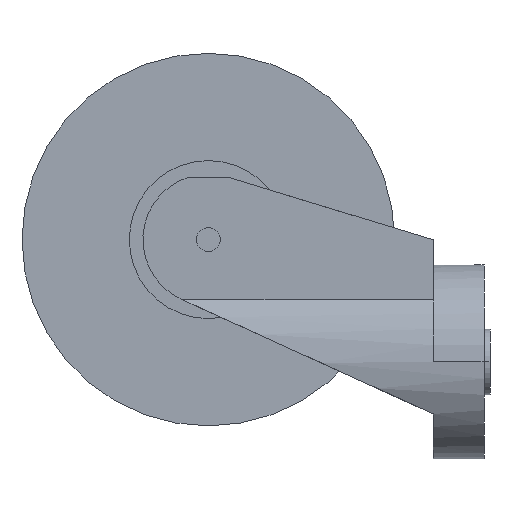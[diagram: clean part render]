
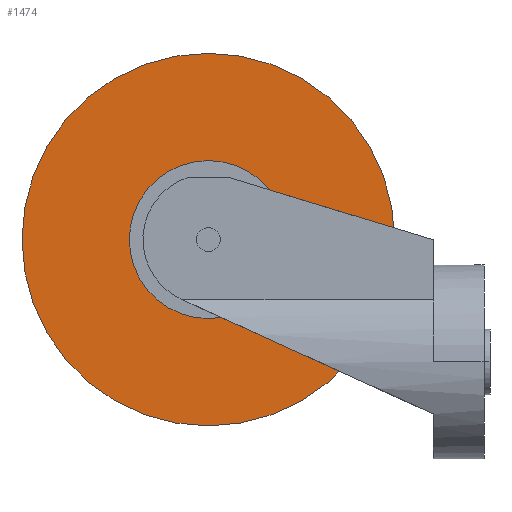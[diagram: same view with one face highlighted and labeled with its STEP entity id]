
A CAD part, left-side view. The second image highlights one B-rep face of the part: STEP entity #1474.
In plain terms, the highlighted planar face has unit normal (-1, 0, 0).
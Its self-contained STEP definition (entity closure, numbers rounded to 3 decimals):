
#1157=CARTESIAN_POINT('',(-18.5,0.,0.));
#1158=DIRECTION('',(-1.,0.,0.));
#1159=DIRECTION('',(0.,0.,-1.));
#1160=AXIS2_PLACEMENT_3D('',#1157,#1158,#1159);
#1162=CARTESIAN_POINT('',(-18.5,0.,0.));
#1163=DIRECTION('',(1.,0.,0.));
#1164=DIRECTION('',(0.,0.,-1.));
#1165=AXIS2_PLACEMENT_3D('',#1162,#1163,#1164);
#1167=CARTESIAN_POINT('',(-18.5,0.,0.));
#1168=DIRECTION('',(1.,0.,0.));
#1169=DIRECTION('',(0.,0.,-1.));
#1170=AXIS2_PLACEMENT_3D('',#1167,#1168,#1169);
#1180=CARTESIAN_POINT('',(-18.5,0.,0.));
#1181=DIRECTION('',(-1.,0.,0.));
#1182=DIRECTION('',(0.,0.,-1.));
#1183=AXIS2_PLACEMENT_3D('',#1180,#1181,#1182);
#1278=CARTESIAN_POINT('',(-18.5,0.,-62.5));
#1280=VERTEX_POINT('',#1278);
#1281=CARTESIAN_POINT('',(-18.5,0.,-26.5));
#1283=VERTEX_POINT('',#1281);
#1298=CARTESIAN_POINT('',(-18.5,0.,62.5));
#1300=VERTEX_POINT('',#1298);
#1301=CARTESIAN_POINT('',(-18.5,0.,26.5));
#1303=VERTEX_POINT('',#1301);
#1459=CARTESIAN_POINT('',(-18.5,0.,0.));
#1460=DIRECTION('',(1.,0.,0.));
#1461=DIRECTION('',(0.,0.,1.));
#1462=AXIS2_PLACEMENT_3D('',#1459,#1460,#1461);
#1463=PLANE('',#1462);
#1464=ORIENTED_EDGE('',*,*,#1452,.F.);
#1465=ORIENTED_EDGE('',*,*,#1441,.T.);
#1466=EDGE_LOOP('',(#1464,#1465));
#1467=FACE_OUTER_BOUND('',#1466,.F.);
#1469=ORIENTED_EDGE('',*,*,#1468,.F.);
#1471=ORIENTED_EDGE('',*,*,#1470,.T.);
#1472=EDGE_LOOP('',(#1469,#1471));
#1473=FACE_BOUND('',#1472,.F.);
#1474=ADVANCED_FACE('',(#1467,#1473),#1463,.F.);
#1161=CIRCLE('',#1160,62.5);
#1166=CIRCLE('',#1165,62.5);
#1171=CIRCLE('',#1170,26.5);
#1184=CIRCLE('',#1183,26.5);
#1441=EDGE_CURVE('',#1280,#1300,#1166,.T.);
#1452=EDGE_CURVE('',#1280,#1300,#1161,.T.);
#1468=EDGE_CURVE('',#1283,#1303,#1171,.T.);
#1470=EDGE_CURVE('',#1283,#1303,#1184,.T.);
